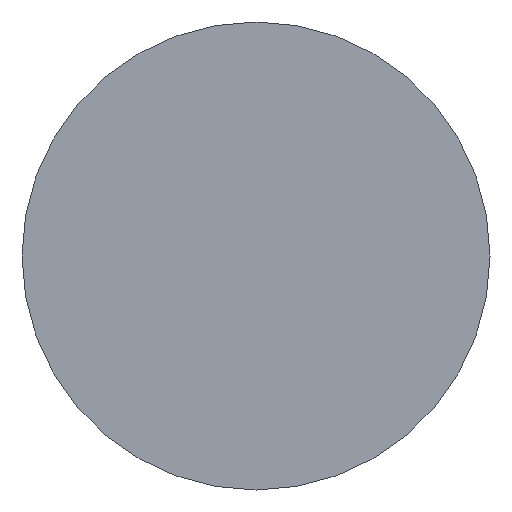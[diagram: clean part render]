
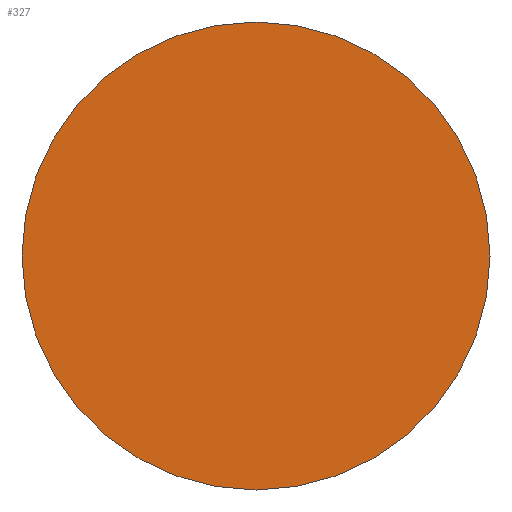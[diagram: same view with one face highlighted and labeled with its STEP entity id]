
A CAD part, left-side view. The second image highlights one B-rep face of the part: STEP entity #327.
In plain terms, the highlighted planar face has unit normal (-1, 0, 0).
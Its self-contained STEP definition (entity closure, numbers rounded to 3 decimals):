
#16=PLANE('',#400);
#60=FACE_OUTER_BOUND('',#76,.T.);
#76=EDGE_LOOP('',(#295,#296));
#116=CIRCLE('',#401,3.085);
#117=CIRCLE('',#402,3.085);
#153=VERTEX_POINT('',#626);
#154=VERTEX_POINT('',#627);
#202=EDGE_CURVE('',#153,#154,#116,.T.);
#203=EDGE_CURVE('',#154,#153,#117,.T.);
#295=ORIENTED_EDGE('',*,*,#202,.F.);
#296=ORIENTED_EDGE('',*,*,#203,.F.);
#327=ADVANCED_FACE('',(#60),#16,.T.);
#400=AXIS2_PLACEMENT_3D('',#625,#517,#518);
#401=AXIS2_PLACEMENT_3D('',#628,#519,#520);
#402=AXIS2_PLACEMENT_3D('',#629,#521,#522);
#517=DIRECTION('center_axis',(-1.,0.,0.));
#518=DIRECTION('ref_axis',(0.,0.,1.));
#519=DIRECTION('center_axis',(1.,0.,0.));
#520=DIRECTION('ref_axis',(0.,0.,-1.));
#521=DIRECTION('center_axis',(1.,0.,0.));
#522=DIRECTION('ref_axis',(0.,0.,-1.));
#625=CARTESIAN_POINT('Origin',(0.,3.085,0.));
#626=CARTESIAN_POINT('',(0.,3.085,0.));
#627=CARTESIAN_POINT('',(0.,-3.085,0.));
#628=CARTESIAN_POINT('Origin',(0.,0.,0.));
#629=CARTESIAN_POINT('Origin',(0.,0.,0.));
